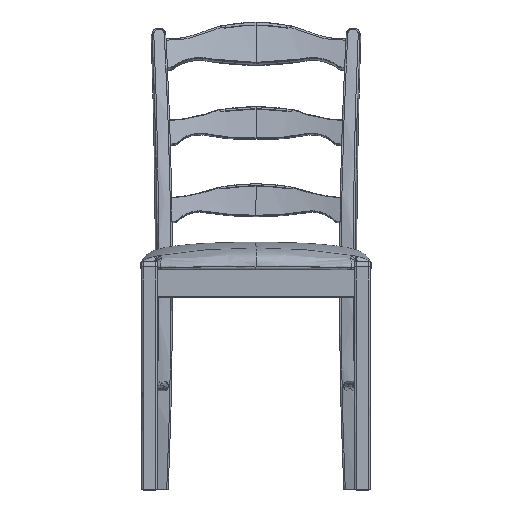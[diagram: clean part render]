
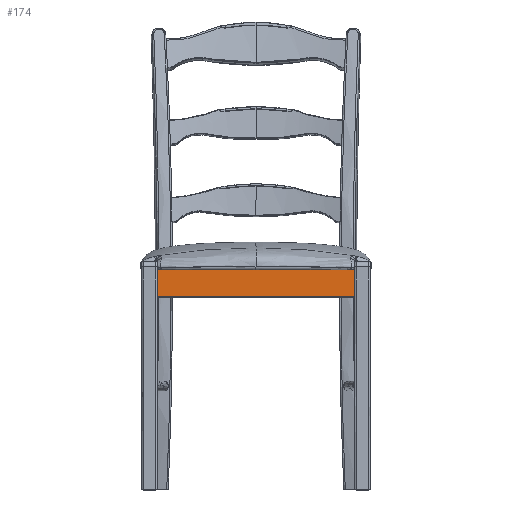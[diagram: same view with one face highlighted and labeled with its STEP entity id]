
A CAD part, front view. The second image highlights one B-rep face of the part: STEP entity #174.
In plain terms, the highlighted planar face has unit normal (0, -1, 0).
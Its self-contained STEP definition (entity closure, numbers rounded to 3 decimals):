
#174=ADVANCED_FACE('',(#559),#5706,.T.);
#559=FACE_OUTER_BOUND('',#944,.T.);
#944=EDGE_LOOP('',(#1740,#1741,#1742,#1743));
#1740=ORIENTED_EDGE('',*,*,#3274,.T.);
#1741=ORIENTED_EDGE('',*,*,#3270,.F.);
#1742=ORIENTED_EDGE('',*,*,#3275,.T.);
#1743=ORIENTED_EDGE('',*,*,#3276,.T.);
#3270=EDGE_CURVE('',#5062,#5063,#4485,.T.);
#3274=EDGE_CURVE('',#5066,#5063,#4489,.T.);
#3275=EDGE_CURVE('',#5062,#5067,#4490,.T.);
#3276=EDGE_CURVE('',#5067,#5066,#4491,.T.);
#4485=B_SPLINE_CURVE_WITH_KNOTS('',1,(#14608,#14609),.UNSPECIFIED.,.F.,
 .F.,(2,2),(-49.104,0.),.UNSPECIFIED.);
#4489=B_SPLINE_CURVE_WITH_KNOTS('',1,(#14616,#14617),.UNSPECIFIED.,.F.,
 .F.,(2,2),(-358.505,0.),.UNSPECIFIED.);
#4490=B_SPLINE_CURVE_WITH_KNOTS('',1,(#14618,#14619),.UNSPECIFIED.,.F.,
 .F.,(2,2),(0.,358.513),.UNSPECIFIED.);
#4491=B_SPLINE_CURVE_WITH_KNOTS('',1,(#14620,#14621),.UNSPECIFIED.,.F.,
 .F.,(2,2),(0.,49.104),.UNSPECIFIED.);
#5062=VERTEX_POINT('',#14587);
#5063=VERTEX_POINT('',#14588);
#5066=VERTEX_POINT('',#14591);
#5067=VERTEX_POINT('',#14592);
#5706=PLANE('',#5856);
#5856=AXIS2_PLACEMENT_3D('',#14540,#5916,$);
#5916=DIRECTION('',(0.,-1.,0.));
#14540=CARTESIAN_POINT('',(-215.109,15.226,404.931));
#14587=CARTESIAN_POINT('',(-179.257,15.231,350.915));
#14588=CARTESIAN_POINT('',(-179.253,15.227,400.019));
#14591=CARTESIAN_POINT('',(179.253,15.227,400.019));
#14592=CARTESIAN_POINT('',(179.257,15.231,350.915));
#14608=CARTESIAN_POINT('',(-179.257,15.231,350.915));
#14609=CARTESIAN_POINT('',(-179.253,15.227,400.019));
#14616=CARTESIAN_POINT('',(179.253,15.227,400.019));
#14617=CARTESIAN_POINT('',(-179.253,15.227,400.019));
#14618=CARTESIAN_POINT('',(-179.257,15.231,350.915));
#14619=CARTESIAN_POINT('',(179.257,15.231,350.915));
#14620=CARTESIAN_POINT('',(179.257,15.231,350.915));
#14621=CARTESIAN_POINT('',(179.253,15.227,400.019));
